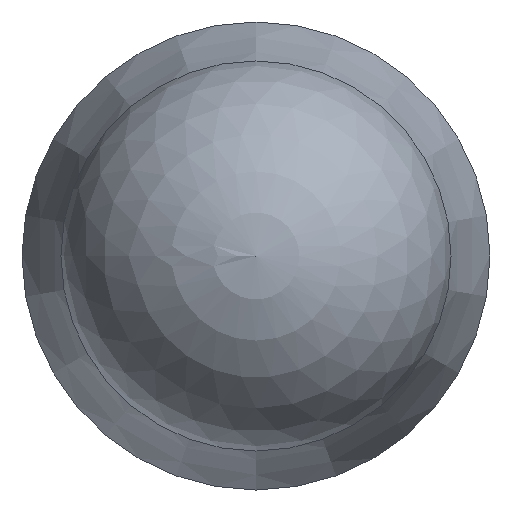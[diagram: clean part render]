
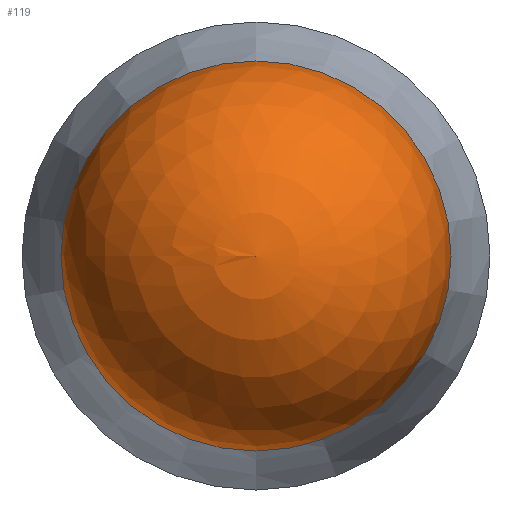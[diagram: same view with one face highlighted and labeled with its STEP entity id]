
A CAD part, left-side view. The second image highlights one B-rep face of the part: STEP entity #119.
In plain terms, the highlighted spherical face has radius 2.5 mm.
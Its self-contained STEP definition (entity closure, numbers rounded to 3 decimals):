
#95=SPHERICAL_SURFACE('',#188,2.5);
#119=ADVANCED_FACE('',(#124),#95,.T.);
#124=FACE_OUTER_BOUND('',#136,.T.);
#136=EDGE_LOOP('',(#150));
#150=ORIENTED_EDGE('',*,*,#166,.T.);
#159=VERTEX_POINT('',#242);
#166=EDGE_CURVE('',#159,#159,#173,.T.);
#173=CIRCLE('',#187,2.5);
#187=AXIS2_PLACEMENT_3D('',#241,#216,#217);
#188=AXIS2_PLACEMENT_3D('',#243,#218,#219);
#216=DIRECTION('',(-1.,0.,0.));
#217=DIRECTION('',(0.,0.,1.));
#218=DIRECTION('',(-1.,0.,0.));
#219=DIRECTION('',(0.,1.,0.));
#241=CARTESIAN_POINT('',(7896.412,6103.288,0.));
#242=CARTESIAN_POINT('',(7896.412,6103.288,2.5));
#243=CARTESIAN_POINT('',(7896.412,6103.288,0.));
